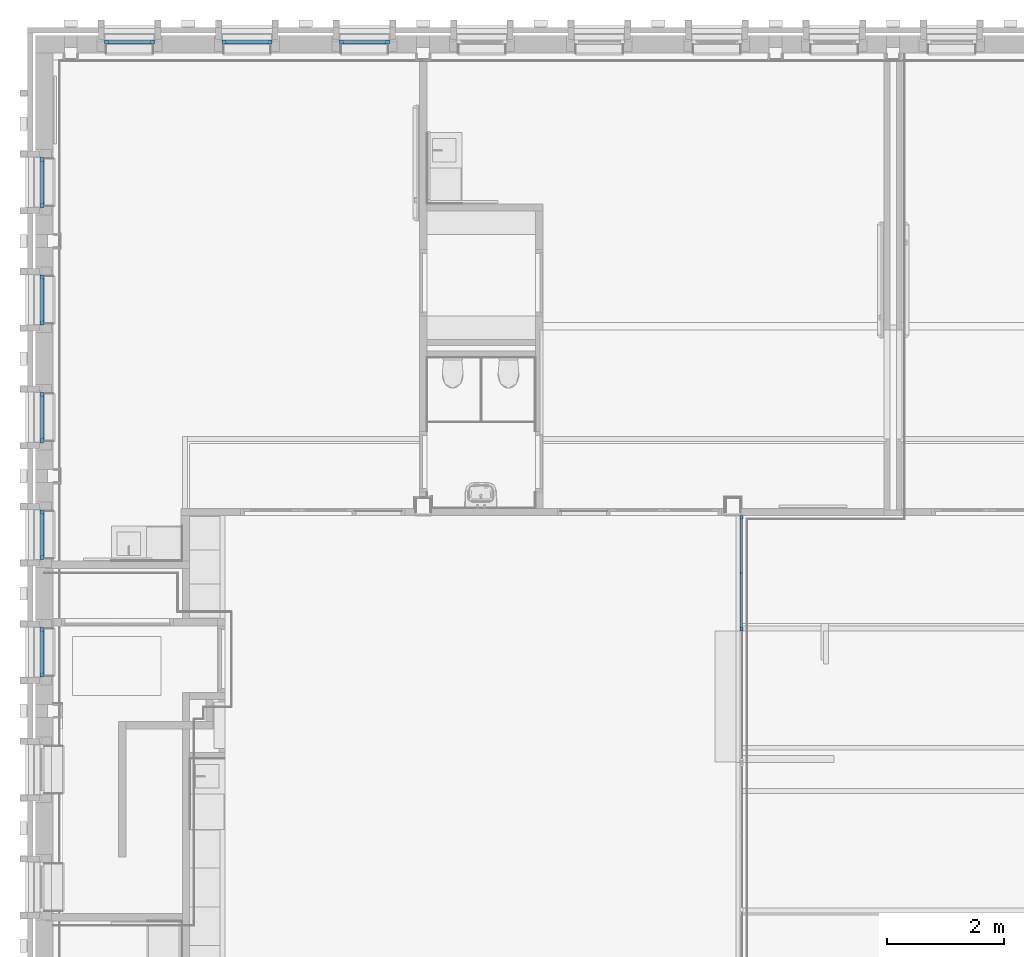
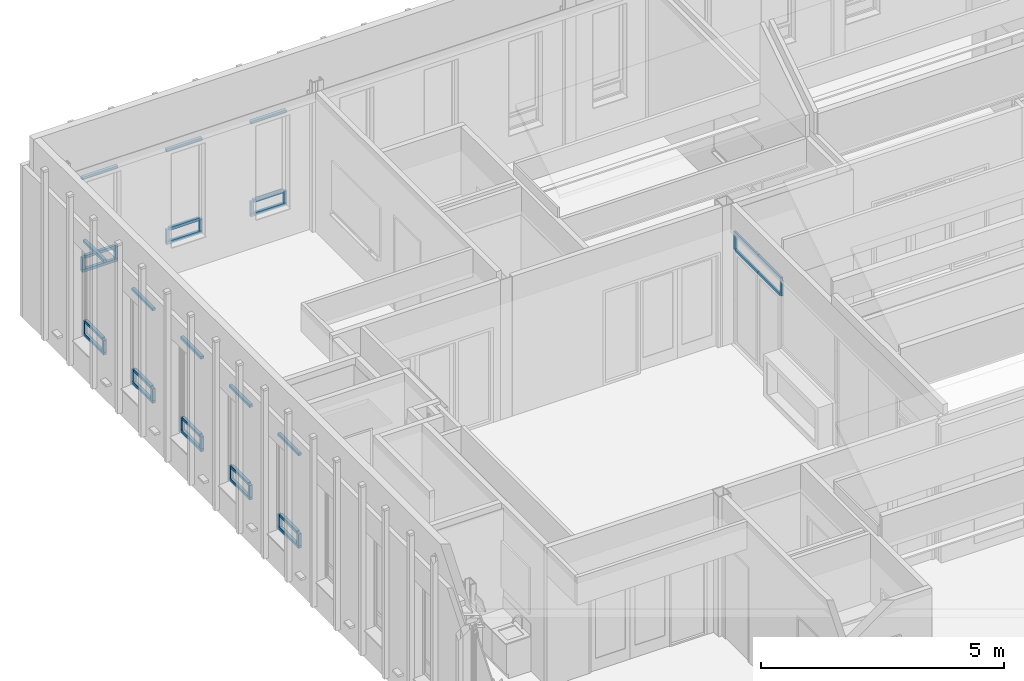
# One storey, part 13 of 118: 46 members, 9 elements without a shape of their own.
"""IFC2X3 building model written with IfcOpenShell, lengths in millimetres."""

from ifc_helpers import new_model, entity, si_unit, converted_unit, derived_unit, direction, frame, origin, origin_2d_with_axis, place, context, subcontext, project, spatial, rectangle, extrude, source, transform, mapped, material, material_list, type_object, type_shapes, element, aggregate, save


model = new_model("IFC2X3")

# Units and contexts
model_context = context("Model", 3, precision=0.01, world=origin(), true_north=direction((6.123031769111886e-17, 1.0)))
plan_context = context("Plan", 3, precision=0.01, world=origin(), true_north=direction((6.123031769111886e-17, 1.0)))
body_context = subcontext(model_context, "Body", "Model", "MODEL_VIEW")
ifc_project = project(units=[si_unit("LENGTHUNIT", "METRE", prefix="MILLI"), si_unit("AREAUNIT", "SQUARE_METRE"), si_unit("VOLUMEUNIT", "CUBIC_METRE"), converted_unit("PLANEANGLEUNIT", "DEGREE", entity("IfcRatioMeasure", 0.017453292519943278), si_unit("PLANEANGLEUNIT", "RADIAN"), dimensions=[0, 0, 0, 0, 0, 0, 0]), si_unit("MASSUNIT", "GRAM", prefix="KILO"), derived_unit("MASSDENSITYUNIT", [(si_unit("MASSUNIT", "GRAM", prefix="KILO"), 1), (si_unit("LENGTHUNIT", "METRE"), -3)]), derived_unit("IONCONCENTRATIONUNIT", [(si_unit("MASSUNIT", "GRAM", prefix="KILO"), 1), (si_unit("LENGTHUNIT", "METRE"), -3)]), derived_unit("MOMENTOFINERTIAUNIT", [(si_unit("LENGTHUNIT", "METRE"), 4)]), si_unit("TIMEUNIT", "SECOND"), si_unit("FREQUENCYUNIT", "HERTZ"), si_unit("THERMODYNAMICTEMPERATUREUNIT", "DEGREE_CELSIUS"), derived_unit("THERMALTRANSMITTANCEUNIT", [(si_unit("MASSUNIT", "GRAM", prefix="KILO"), 1), (si_unit("THERMODYNAMICTEMPERATUREUNIT", "KELVIN"), -1), (si_unit("TIMEUNIT", "SECOND"), -3)]), derived_unit("THERMALCONDUCTANCEUNIT", [(si_unit("MASSUNIT", "GRAM", prefix="KILO"), 1), (si_unit("THERMODYNAMICTEMPERATUREUNIT", "KELVIN"), -1), (si_unit("TIMEUNIT", "SECOND"), -3), (si_unit("LENGTHUNIT", "METRE"), 1)]), derived_unit("VOLUMETRICFLOWRATEUNIT", [(si_unit("LENGTHUNIT", "METRE"), 3), (si_unit("TIMEUNIT", "SECOND"), -1)]), derived_unit("MASSFLOWRATEUNIT", [(si_unit("MASSUNIT", "GRAM", prefix="KILO"), 1), (si_unit("TIMEUNIT", "SECOND"), -1)]), derived_unit("ROTATIONALFREQUENCYUNIT", [(si_unit("TIMEUNIT", "SECOND"), -1)]), si_unit("ELECTRICCURRENTUNIT", "AMPERE"), si_unit("ELECTRICVOLTAGEUNIT", "VOLT"), si_unit("POWERUNIT", "WATT"), si_unit("FORCEUNIT", "NEWTON", prefix="KILO"), si_unit("ILLUMINANCEUNIT", "LUX"), si_unit("LUMINOUSFLUXUNIT", "LUMEN"), si_unit("LUMINOUSINTENSITYUNIT", "CANDELA"), derived_unit("USERDEFINED", [(si_unit("MASSUNIT", "GRAM", prefix="KILO"), -1), (si_unit("LENGTHUNIT", "METRE"), -2), (si_unit("TIMEUNIT", "SECOND"), 3), (si_unit("LUMINOUSFLUXUNIT", "LUMEN"), 1)]), derived_unit("USERDEFINED", [(si_unit("MASSUNIT", "GRAM", prefix="KILO"), 1), (si_unit("TIMEUNIT", "SECOND"), -3), (si_unit("LENGTHUNIT", "METRE"), 3), (si_unit("ELECTRICCURRENTUNIT", "AMPERE"), -2)]), derived_unit("SOUNDPOWERUNIT", [(si_unit("MASSUNIT", "GRAM", prefix="KILO"), 1), (si_unit("TIMEUNIT", "SECOND"), -3), (si_unit("LENGTHUNIT", "METRE"), 2)]), derived_unit("SOUNDPRESSUREUNIT", [(si_unit("MASSUNIT", "GRAM", prefix="KILO"), 1), (si_unit("LENGTHUNIT", "METRE"), -1), (si_unit("TIMEUNIT", "SECOND"), -2)]), derived_unit("LINEARVELOCITYUNIT", [(si_unit("LENGTHUNIT", "METRE"), 1), (si_unit("TIMEUNIT", "SECOND"), -1)]), si_unit("PRESSUREUNIT", "PASCAL"), derived_unit("USERDEFINED", [(si_unit("MASSUNIT", "GRAM", prefix="KILO"), 1), (si_unit("LENGTHUNIT", "METRE"), -2), (si_unit("TIMEUNIT", "SECOND"), -2)]), derived_unit("LINEARFORCEUNIT", [(si_unit("MASSUNIT", "GRAM", prefix="KILO"), 1), (si_unit("TIMEUNIT", "SECOND"), -2)]), derived_unit("PLANARFORCEUNIT", [(si_unit("MASSUNIT", "GRAM", prefix="KILO"), 1), (si_unit("LENGTHUNIT", "METRE"), -1), (si_unit("TIMEUNIT", "SECOND"), -2)]), derived_unit("SPECIFICHEATCAPACITYUNIT", [(si_unit("THERMODYNAMICTEMPERATUREUNIT", "KELVIN"), -1), (si_unit("LENGTHUNIT", "METRE"), 2), (si_unit("TIMEUNIT", "SECOND"), -2)]), derived_unit("HEATINGVALUEUNIT", [(si_unit("LENGTHUNIT", "METRE"), 2), (si_unit("TIMEUNIT", "SECOND"), -2)]), derived_unit("VAPORPERMEABILITYUNIT", [(si_unit("LENGTHUNIT", "METRE"), -1), (si_unit("TIMEUNIT", "SECOND"), 1)]), derived_unit("DYNAMICVISCOSITYUNIT", [(si_unit("MASSUNIT", "GRAM", prefix="KILO"), 1), (si_unit("TIMEUNIT", "SECOND"), -1), (si_unit("LENGTHUNIT", "METRE"), -1)]), derived_unit("THERMALEXPANSIONCOEFFICIENTUNIT", [(si_unit("THERMODYNAMICTEMPERATUREUNIT", "KELVIN"), -1)]), derived_unit("MODULUSOFELASTICITYUNIT", [(si_unit("MASSUNIT", "GRAM", prefix="KILO"), 1), (si_unit("LENGTHUNIT", "METRE"), -1), (si_unit("TIMEUNIT", "SECOND"), -2)]), derived_unit("ISOTHERMALMOISTURECAPACITYUNIT", [(si_unit("LENGTHUNIT", "METRE"), 3), (si_unit("MASSUNIT", "GRAM", prefix="KILO"), -1)]), derived_unit("MOISTUREDIFFUSIVITYUNIT", [(si_unit("TIMEUNIT", "SECOND"), -1), (si_unit("LENGTHUNIT", "METRE"), 2)])], contexts=[model_context, plan_context])

# Site, building, storey
site_placement = place(None, origin())
site = spatial("IfcSite", under=ifc_project, at=site_placement, Name="Locatie", CompositionType="ELEMENT")
building_placement = place(site_placement, origin())
building = spatial("IfcBuilding", under=site, at=building_placement, Name="Bouwwerk", CompositionType="ELEMENT")
storey_placement = place(building_placement, frame((0.0, 0.0, 7800.0)))
storey = spatial("IfcBuildingStorey", under=building, at=storey_placement, Name="02 tweede verdieping", CompositionType="ELEMENT", Elevation=7800.000000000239)

# Curtain wall, member
curtain_wall_type_1 = type_object("IfcCurtainWallType", Name="Curtain Wall:NLRS_21_CW_Ontwerpkozijn_aluminium_RT72", PredefinedType="NOTDEFINED")
curtain_wall_1_placement = place(storey_placement, frame((0.0, 0.0, -7800.0)))
curtain_wall_1 = element("IfcCurtainWall", 1, at=curtain_wall_1_placement, inside=storey, type_object=curtain_wall_type_1, Name="Curtain Wall:NLRS_21_CW_Ontwerpkozijn_aluminium_RT72", ObjectType="Curtain Wall:NLRS_21_CW_Ontwerpkozijn_aluminium_RT72")
ifc_material_1 = material(Name="a_kozijn")
ifc_material_2 = material(Name="<Unnamed>")
ifc_material_list = material_list([ifc_material_2, ifc_material_1])
member_type_1 = type_object("IfcMemberType", Name="Rectangular Mullion:RT72_Vb_raam", PredefinedType="MULLION", material=ifc_material_list)
shared_shape_1 = source(origin(), body_context, "Body", "SweptSolid", [
    extrude(rectangle(XDim=71.99999999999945, YDim=68.00000000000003, at=origin_2d_with_axis()), frame((-34.0, -36.0, -850.0), z_axis=(0.0, 0.0, 1.0), x_axis=(0.0, -1.0, 0.0)), (0.0, 0.0, 1.0), 850.0000000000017),
])
type_shapes(member_type_1, [shared_shape_1])
member_1_placement = place(curtain_wall_1_placement, frame((9847.0, 24625.0, 10863.0), z_axis=(0.0, 1.0, 0.0), x_axis=(0.0, 0.0, 1.0)))
member_1 = element("IfcMember", 2, at=member_1_placement, type_object=member_type_1, material=ifc_material_1, Name="Rectangular Mullion:RT72_Vb_raam", ObjectType="Rectangular Mullion:RT72_Vb_raam", context=body_context, shape_type="MappedRepresentation", body=[
    mapped(shared_shape_1, transform((0.0, 0.0, 0.0), scale=1.0)),
])

curtain_wall_2_placement = place(storey_placement, frame((0.0, 0.0, -7800.0)))
curtain_wall_2 = element("IfcCurtainWall", 3, at=curtain_wall_2_placement, inside=storey, type_object=curtain_wall_type_1, Name="Curtain Wall:NLRS_21_CW_Ontwerpkozijn_aluminium_RT72", ObjectType="Curtain Wall:NLRS_21_CW_Ontwerpkozijn_aluminium_RT72")
member_2_placement = place(curtain_wall_2_placement, frame((9847.0, 26625.0, 10863.0), z_axis=(0.0, 1.0, 0.0), x_axis=(0.0, 0.0, 1.0)))
member_2 = element("IfcMember", 4, at=member_2_placement, type_object=member_type_1, material=ifc_material_1, Name="Rectangular Mullion:RT72_Vb_raam", ObjectType="Rectangular Mullion:RT72_Vb_raam", context=body_context, shape_type="MappedRepresentation", body=[
    mapped(shared_shape_1, transform((0.0, 0.0, 0.0), scale=1.0)),
])

curtain_wall_3_placement = place(storey_placement, frame((0.0, 0.0, -7800.0)))
curtain_wall_3 = element("IfcCurtainWall", 5, at=curtain_wall_3_placement, inside=storey, type_object=curtain_wall_type_1, Name="Curtain Wall:NLRS_21_CW_Ontwerpkozijn_aluminium_RT72", ObjectType="Curtain Wall:NLRS_21_CW_Ontwerpkozijn_aluminium_RT72")
member_3_placement = place(curtain_wall_3_placement, frame((9847.0, 30625.0, 10863.0), z_axis=(0.0, 1.0, 0.0), x_axis=(0.0, 0.0, 1.0)))
member_3 = element("IfcMember", 6, at=member_3_placement, type_object=member_type_1, material=ifc_material_1, Name="Rectangular Mullion:RT72_Vb_raam", ObjectType="Rectangular Mullion:RT72_Vb_raam", context=body_context, shape_type="MappedRepresentation", body=[
    mapped(shared_shape_1, transform((0.0, 0.0, 0.0), scale=1.0)),
])

curtain_wall_4_placement = place(storey_placement, frame((0.0, 0.0, -7800.0)))
curtain_wall_4 = element("IfcCurtainWall", 7, at=curtain_wall_4_placement, inside=storey, type_object=curtain_wall_type_1, Name="Curtain Wall:NLRS_21_CW_Ontwerpkozijn_aluminium_RT72", ObjectType="Curtain Wall:NLRS_21_CW_Ontwerpkozijn_aluminium_RT72")
member_4_placement = place(curtain_wall_4_placement, frame((13725.0, 34553.0, 10863.0), z_axis=(1.0, 0.0, 0.0), x_axis=(0.0, 0.0, 1.0)))
member_4 = element("IfcMember", 8, at=member_4_placement, type_object=member_type_1, material=ifc_material_1, Name="Rectangular Mullion:RT72_Vb_raam", ObjectType="Rectangular Mullion:RT72_Vb_raam", context=body_context, shape_type="MappedRepresentation", body=[
    mapped(shared_shape_1, transform((0.0, 0.0, 0.0), scale=1.0)),
])

curtain_wall_5_placement = place(storey_placement, frame((0.0, 0.0, -7800.0)))
curtain_wall_5 = element("IfcCurtainWall", 9, at=curtain_wall_5_placement, inside=storey, type_object=curtain_wall_type_1, Name="Curtain Wall:NLRS_21_CW_Ontwerpkozijn_aluminium_RT72", ObjectType="Curtain Wall:NLRS_21_CW_Ontwerpkozijn_aluminium_RT72")
member_5_placement = place(curtain_wall_5_placement, frame((15725.0, 34553.0, 10863.0), z_axis=(1.0, 0.0, 0.0), x_axis=(0.0, 0.0, 1.0)))
member_5 = element("IfcMember", 10, at=member_5_placement, type_object=member_type_1, material=ifc_material_1, Name="Rectangular Mullion:RT72_Vb_raam", ObjectType="Rectangular Mullion:RT72_Vb_raam", context=body_context, shape_type="MappedRepresentation", body=[
    mapped(shared_shape_1, transform((0.0, 0.0, 0.0), scale=1.0)),
])

curtain_wall_6_placement = place(storey_placement, frame((0.0, 0.0, -7800.0)))
curtain_wall_6 = element("IfcCurtainWall", 11, at=curtain_wall_6_placement, inside=storey, type_object=curtain_wall_type_1, Name="Curtain Wall:NLRS_21_CW_Ontwerpkozijn_aluminium_RT72", ObjectType="Curtain Wall:NLRS_21_CW_Ontwerpkozijn_aluminium_RT72")
member_6_placement = place(curtain_wall_6_placement, frame((11725.0, 34553.0, 10863.0), z_axis=(1.0, 0.0, 0.0), x_axis=(0.0, 0.0, 1.0)))
member_6 = element("IfcMember", 12, at=member_6_placement, type_object=member_type_1, material=ifc_material_1, Name="Rectangular Mullion:RT72_Vb_raam", ObjectType="Rectangular Mullion:RT72_Vb_raam", context=body_context, shape_type="MappedRepresentation", body=[
    mapped(shared_shape_1, transform((0.0, 0.0, 0.0), scale=1.0)),
])

curtain_wall_7_placement = place(storey_placement, frame((0.0, 0.0, -7800.0)))
curtain_wall_7 = element("IfcCurtainWall", 13, at=curtain_wall_7_placement, inside=storey, type_object=curtain_wall_type_1, Name="Curtain Wall:NLRS_21_CW_Ontwerpkozijn_aluminium_RT72", ObjectType="Curtain Wall:NLRS_21_CW_Ontwerpkozijn_aluminium_RT72")
member_7_placement = place(curtain_wall_7_placement, frame((9847.0, 28625.0, 10863.0), z_axis=(0.0, 1.0, 0.0), x_axis=(0.0, 0.0, 1.0)))
member_7 = element("IfcMember", 14, at=member_7_placement, type_object=member_type_1, material=ifc_material_1, Name="Rectangular Mullion:RT72_Vb_raam", ObjectType="Rectangular Mullion:RT72_Vb_raam", context=body_context, shape_type="MappedRepresentation", body=[
    mapped(shared_shape_1, transform((0.0, 0.0, 0.0), scale=1.0)),
])

curtain_wall_8_placement = place(storey_placement, frame((0.0, 0.0, -7800.0)))
curtain_wall_8 = element("IfcCurtainWall", 15, at=curtain_wall_8_placement, inside=storey, type_object=curtain_wall_type_1, Name="Curtain Wall:NLRS_21_CW_Ontwerpkozijn_aluminium_RT72", ObjectType="Curtain Wall:NLRS_21_CW_Ontwerpkozijn_aluminium_RT72")
member_8_placement = place(curtain_wall_8_placement, frame((9847.0, 32625.0, 10863.0), z_axis=(0.0, 1.0, 0.0), x_axis=(0.0, 0.0, 1.0)))
member_8 = element("IfcMember", 16, at=member_8_placement, type_object=member_type_1, material=ifc_material_1, Name="Rectangular Mullion:RT72_Vb_raam", ObjectType="Rectangular Mullion:RT72_Vb_raam", context=body_context, shape_type="MappedRepresentation", body=[
    mapped(shared_shape_1, transform((0.0, 0.0, 0.0), scale=1.0)),
])

# Member
member_type_2 = type_object("IfcMemberType", Name="Rectangular Mullion:RT72_Vo_raam", PredefinedType="MULLION", material=ifc_material_list)
shared_shape_2 = source(origin(), body_context, "Body", "SweptSolid", [
    extrude(rectangle(XDim=71.99999999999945, YDim=68.00000000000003, at=origin_2d_with_axis()), frame((-34.0, -36.0, -850.0), z_axis=(0.0, 0.0, 1.0), x_axis=(0.0, -1.0, 0.0)), (0.0, 0.0, 1.0), 850.0000000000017),
])
type_shapes(member_type_2, [shared_shape_2])
member_9_placement = place(curtain_wall_1_placement, frame((9847.0, 23775.0, 8473.0), z_axis=(0.0, -1.0, 0.0), x_axis=(0.0, 0.0, -1.0)))
member_9 = element("IfcMember", 17, at=member_9_placement, type_object=member_type_2, material=ifc_material_1, Name="Rectangular Mullion:RT72_Vo_raam", ObjectType="Rectangular Mullion:RT72_Vo_raam", context=body_context, shape_type="MappedRepresentation", body=[
    mapped(shared_shape_2, transform((0.0, 0.0, 0.0), scale=1.0)),
])

member_10_placement = place(curtain_wall_2_placement, frame((9847.0, 25775.0, 8473.0), z_axis=(0.0, -1.0, 0.0), x_axis=(0.0, 0.0, -1.0)))
member_10 = element("IfcMember", 18, at=member_10_placement, type_object=member_type_2, material=ifc_material_1, Name="Rectangular Mullion:RT72_Vo_raam", ObjectType="Rectangular Mullion:RT72_Vo_raam", context=body_context, shape_type="MappedRepresentation", body=[
    mapped(shared_shape_2, transform((0.0, 0.0, 0.0), scale=1.0)),
])

member_11_placement = place(curtain_wall_3_placement, frame((9847.0, 29775.0, 8473.0), z_axis=(0.0, -1.0, 0.0), x_axis=(0.0, 0.0, -1.0)))
member_11 = element("IfcMember", 19, at=member_11_placement, type_object=member_type_2, material=ifc_material_1, Name="Rectangular Mullion:RT72_Vo_raam", ObjectType="Rectangular Mullion:RT72_Vo_raam", context=body_context, shape_type="MappedRepresentation", body=[
    mapped(shared_shape_2, transform((0.0, 0.0, 0.0), scale=1.0)),
])

member_12_placement = place(curtain_wall_4_placement, frame((12875.0, 34553.0, 8473.0), z_axis=(-1.0, 0.0, 0.0), x_axis=(0.0, 0.0, -1.0)))
member_12 = element("IfcMember", 20, at=member_12_placement, type_object=member_type_2, material=ifc_material_1, Name="Rectangular Mullion:RT72_Vo_raam", ObjectType="Rectangular Mullion:RT72_Vo_raam", context=body_context, shape_type="MappedRepresentation", body=[
    mapped(shared_shape_2, transform((0.0, 0.0, 0.0), scale=1.0)),
])

member_13_placement = place(curtain_wall_5_placement, frame((14875.0, 34553.0, 8473.0), z_axis=(-1.0, 0.0, 0.0), x_axis=(0.0, 0.0, -1.0)))
member_13 = element("IfcMember", 21, at=member_13_placement, type_object=member_type_2, material=ifc_material_1, Name="Rectangular Mullion:RT72_Vo_raam", ObjectType="Rectangular Mullion:RT72_Vo_raam", context=body_context, shape_type="MappedRepresentation", body=[
    mapped(shared_shape_2, transform((0.0, 0.0, 0.0), scale=1.0)),
])

member_14_placement = place(curtain_wall_6_placement, frame((10875.0, 34553.0, 8473.0), z_axis=(-1.0, 0.0, 0.0), x_axis=(0.0, 0.0, -1.0)))
member_14 = element("IfcMember", 22, at=member_14_placement, type_object=member_type_2, material=ifc_material_1, Name="Rectangular Mullion:RT72_Vo_raam", ObjectType="Rectangular Mullion:RT72_Vo_raam", context=body_context, shape_type="MappedRepresentation", body=[
    mapped(shared_shape_2, transform((0.0, 0.0, 0.0), scale=1.0)),
])

member_15_placement = place(curtain_wall_7_placement, frame((9847.0, 27775.0, 8473.0), z_axis=(0.0, -1.0, 0.0), x_axis=(0.0, 0.0, -1.0)))
member_15 = element("IfcMember", 23, at=member_15_placement, type_object=member_type_2, material=ifc_material_1, Name="Rectangular Mullion:RT72_Vo_raam", ObjectType="Rectangular Mullion:RT72_Vo_raam", context=body_context, shape_type="MappedRepresentation", body=[
    mapped(shared_shape_2, transform((0.0, 0.0, 0.0), scale=1.0)),
])

member_16_placement = place(curtain_wall_8_placement, frame((9847.0, 31775.0, 8473.0), z_axis=(0.0, -1.0, 0.0), x_axis=(0.0, 0.0, -1.0)))
member_16 = element("IfcMember", 24, at=member_16_placement, type_object=member_type_2, material=ifc_material_1, Name="Rectangular Mullion:RT72_Vo_raam", ObjectType="Rectangular Mullion:RT72_Vo_raam", context=body_context, shape_type="MappedRepresentation", body=[
    mapped(shared_shape_2, transform((0.0, 0.0, 0.0), scale=1.0)),
])

member_type_3 = type_object("IfcMemberType", Name="Rectangular Mullion:RT72_Hl_raam", PredefinedType="MULLION", material=ifc_material_list)
shared_shape_3 = source(origin(), body_context, "Body", "SweptSolid", [
    extrude(rectangle(XDim=71.99999999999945, YDim=68.00000000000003, at=origin_2d_with_axis()), frame((-34.0, -36.0, -301.0), z_axis=(0.0, 0.0, 1.0), x_axis=(0.0, -1.0, 0.0)), (0.0, 0.0, 1.0), 301.00000000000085),
])
type_shapes(member_type_3, [shared_shape_3])
member_17_placement = place(curtain_wall_1_placement, frame((9847.0, 24625.0, 8541.0), z_axis=(0.0, 0.0, -1.0), x_axis=(0.0, 1.0, 0.0)))
member_17 = element("IfcMember", 25, at=member_17_placement, type_object=member_type_3, material=ifc_material_1, Name="Rectangular Mullion:RT72_Hl_raam", ObjectType="Rectangular Mullion:RT72_Hl_raam", context=body_context, shape_type="MappedRepresentation", body=[
    mapped(shared_shape_3, transform((0.0, 0.0, 0.0), scale=1.0)),
])

member_18_placement = place(curtain_wall_2_placement, frame((9847.0, 26625.0, 8541.0), z_axis=(0.0, 0.0, -1.0), x_axis=(0.0, 1.0, 0.0)))
member_18 = element("IfcMember", 26, at=member_18_placement, type_object=member_type_3, material=ifc_material_1, Name="Rectangular Mullion:RT72_Hl_raam", ObjectType="Rectangular Mullion:RT72_Hl_raam", context=body_context, shape_type="MappedRepresentation", body=[
    mapped(shared_shape_3, transform((0.0, 0.0, 0.0), scale=1.0)),
])

member_19_placement = place(curtain_wall_3_placement, frame((9847.0, 30625.0, 8541.0), z_axis=(0.0, 0.0, -1.0), x_axis=(0.0, 1.0, 0.0)))
member_19 = element("IfcMember", 27, at=member_19_placement, type_object=member_type_3, material=ifc_material_1, Name="Rectangular Mullion:RT72_Hl_raam", ObjectType="Rectangular Mullion:RT72_Hl_raam", context=body_context, shape_type="MappedRepresentation", body=[
    mapped(shared_shape_3, transform((0.0, 0.0, 0.0), scale=1.0)),
])

member_20_placement = place(curtain_wall_4_placement, frame((13725.0, 34553.0, 8541.0), z_axis=(0.0, 0.0, -1.0), x_axis=(1.0, 0.0, 0.0)))
member_20 = element("IfcMember", 28, at=member_20_placement, type_object=member_type_3, material=ifc_material_1, Name="Rectangular Mullion:RT72_Hl_raam", ObjectType="Rectangular Mullion:RT72_Hl_raam", context=body_context, shape_type="MappedRepresentation", body=[
    mapped(shared_shape_3, transform((0.0, 0.0, 0.0), scale=1.0)),
])

member_21_placement = place(curtain_wall_5_placement, frame((15725.0, 34553.0, 8541.0), z_axis=(0.0, 0.0, -1.0), x_axis=(1.0, 0.0, 0.0)))
member_21 = element("IfcMember", 29, at=member_21_placement, type_object=member_type_3, material=ifc_material_1, Name="Rectangular Mullion:RT72_Hl_raam", ObjectType="Rectangular Mullion:RT72_Hl_raam", context=body_context, shape_type="MappedRepresentation", body=[
    mapped(shared_shape_3, transform((0.0, 0.0, 0.0), scale=1.0)),
])

member_22_placement = place(curtain_wall_6_placement, frame((11725.0, 34553.0, 8541.0), z_axis=(0.0, 0.0, -1.0), x_axis=(1.0, 0.0, 0.0)))
member_22 = element("IfcMember", 30, at=member_22_placement, type_object=member_type_3, material=ifc_material_1, Name="Rectangular Mullion:RT72_Hl_raam", ObjectType="Rectangular Mullion:RT72_Hl_raam", context=body_context, shape_type="MappedRepresentation", body=[
    mapped(shared_shape_3, transform((0.0, 0.0, 0.0), scale=1.0)),
])

member_23_placement = place(curtain_wall_7_placement, frame((9847.0, 28625.0, 8541.0), z_axis=(0.0, 0.0, -1.0), x_axis=(0.0, 1.0, 0.0)))
member_23 = element("IfcMember", 31, at=member_23_placement, type_object=member_type_3, material=ifc_material_1, Name="Rectangular Mullion:RT72_Hl_raam", ObjectType="Rectangular Mullion:RT72_Hl_raam", context=body_context, shape_type="MappedRepresentation", body=[
    mapped(shared_shape_3, transform((0.0, 0.0, 0.0), scale=1.0)),
])

member_24_placement = place(curtain_wall_8_placement, frame((9847.0, 32625.0, 8541.0), z_axis=(0.0, 0.0, -1.0), x_axis=(0.0, 1.0, 0.0)))
member_24 = element("IfcMember", 32, at=member_24_placement, type_object=member_type_3, material=ifc_material_1, Name="Rectangular Mullion:RT72_Hl_raam", ObjectType="Rectangular Mullion:RT72_Hl_raam", context=body_context, shape_type="MappedRepresentation", body=[
    mapped(shared_shape_3, transform((0.0, 0.0, 0.0), scale=1.0)),
])

member_type_4 = type_object("IfcMemberType", Name="Rectangular Mullion:RT72_Hr_raam", PredefinedType="MULLION", material=ifc_material_list)
shared_shape_4 = source(origin(), body_context, "Body", "SweptSolid", [
    extrude(rectangle(XDim=71.99999999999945, YDim=68.00000000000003, at=origin_2d_with_axis()), frame((-34.0, -36.0, -301.0), z_axis=(0.0, 0.0, 1.0), x_axis=(0.0, -1.0, 0.0)), (0.0, 0.0, 1.0), 301.00000000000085),
])
type_shapes(member_type_4, [shared_shape_4])
member_25_placement = place(curtain_wall_1_placement, frame((9847.0, 23775.0, 8842.0), z_axis=(0.0, 0.0, 1.0), x_axis=(0.0, -1.0, 0.0)))
member_25 = element("IfcMember", 33, at=member_25_placement, type_object=member_type_4, material=ifc_material_1, Name="Rectangular Mullion:RT72_Hr_raam", ObjectType="Rectangular Mullion:RT72_Hr_raam", context=body_context, shape_type="MappedRepresentation", body=[
    mapped(shared_shape_4, transform((0.0, 0.0, 0.0), scale=1.0)),
])

member_26_placement = place(curtain_wall_2_placement, frame((9847.0, 25775.0, 8842.0), z_axis=(0.0, 0.0, 1.0), x_axis=(0.0, -1.0, 0.0)))
member_26 = element("IfcMember", 34, at=member_26_placement, type_object=member_type_4, material=ifc_material_1, Name="Rectangular Mullion:RT72_Hr_raam", ObjectType="Rectangular Mullion:RT72_Hr_raam", context=body_context, shape_type="MappedRepresentation", body=[
    mapped(shared_shape_4, transform((0.0, 0.0, 0.0), scale=1.0)),
])

member_27_placement = place(curtain_wall_3_placement, frame((9847.0, 29775.0, 8842.0), z_axis=(0.0, 0.0, 1.0), x_axis=(0.0, -1.0, 0.0)))
member_27 = element("IfcMember", 35, at=member_27_placement, type_object=member_type_4, material=ifc_material_1, Name="Rectangular Mullion:RT72_Hr_raam", ObjectType="Rectangular Mullion:RT72_Hr_raam", context=body_context, shape_type="MappedRepresentation", body=[
    mapped(shared_shape_4, transform((0.0, 0.0, 0.0), scale=1.0)),
])

member_28_placement = place(curtain_wall_4_placement, frame((12875.0, 34553.0, 8842.0), z_axis=(0.0, 0.0, 1.0), x_axis=(-1.0, 0.0, 0.0)))
member_28 = element("IfcMember", 36, at=member_28_placement, type_object=member_type_4, material=ifc_material_1, Name="Rectangular Mullion:RT72_Hr_raam", ObjectType="Rectangular Mullion:RT72_Hr_raam", context=body_context, shape_type="MappedRepresentation", body=[
    mapped(shared_shape_4, transform((0.0, 0.0, 0.0), scale=1.0)),
])

member_29_placement = place(curtain_wall_5_placement, frame((14875.0, 34553.0, 8842.0), z_axis=(0.0, 0.0, 1.0), x_axis=(-1.0, 0.0, 0.0)))
member_29 = element("IfcMember", 37, at=member_29_placement, type_object=member_type_4, material=ifc_material_1, Name="Rectangular Mullion:RT72_Hr_raam", ObjectType="Rectangular Mullion:RT72_Hr_raam", context=body_context, shape_type="MappedRepresentation", body=[
    mapped(shared_shape_4, transform((0.0, 0.0, 0.0), scale=1.0)),
])

member_30_placement = place(curtain_wall_6_placement, frame((10875.0, 34553.0, 8842.0), z_axis=(0.0, 0.0, 1.0), x_axis=(-1.0, 0.0, 0.0)))
member_30 = element("IfcMember", 38, at=member_30_placement, type_object=member_type_4, material=ifc_material_1, Name="Rectangular Mullion:RT72_Hr_raam", ObjectType="Rectangular Mullion:RT72_Hr_raam", context=body_context, shape_type="MappedRepresentation", body=[
    mapped(shared_shape_4, transform((0.0, 0.0, 0.0), scale=1.0)),
])

member_31_placement = place(curtain_wall_7_placement, frame((9847.0, 27775.0, 8842.0), z_axis=(0.0, 0.0, 1.0), x_axis=(0.0, -1.0, 0.0)))
member_31 = element("IfcMember", 39, at=member_31_placement, type_object=member_type_4, material=ifc_material_1, Name="Rectangular Mullion:RT72_Hr_raam", ObjectType="Rectangular Mullion:RT72_Hr_raam", context=body_context, shape_type="MappedRepresentation", body=[
    mapped(shared_shape_4, transform((0.0, 0.0, 0.0), scale=1.0)),
])

member_32_placement = place(curtain_wall_8_placement, frame((9847.0, 31775.0, 8842.0), z_axis=(0.0, 0.0, 1.0), x_axis=(0.0, -1.0, 0.0)))
member_32 = element("IfcMember", 40, at=member_32_placement, type_object=member_type_4, material=ifc_material_1, Name="Rectangular Mullion:RT72_Hr_raam", ObjectType="Rectangular Mullion:RT72_Hr_raam", context=body_context, shape_type="MappedRepresentation", body=[
    mapped(shared_shape_4, transform((0.0, 0.0, 0.0), scale=1.0)),
])

member_type_5 = type_object("IfcMemberType", Name="Rectangular Mullion:RT72_Vb_raam", PredefinedType="MULLION", material=ifc_material_list)
shared_shape_5 = source(origin(), body_context, "Body", "SweptSolid", [
    extrude(rectangle(XDim=71.99999999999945, YDim=68.00000000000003, at=origin_2d_with_axis()), frame((0.0, -36.0, -714.0), z_axis=(0.0, 0.0, 1.0), x_axis=(0.0, -1.0, 0.0)), (0.0, 0.0, 1.0), 714.0000000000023),
])
type_shapes(member_type_5, [shared_shape_5])
member_33_placement = place(curtain_wall_1_placement, frame((9847.0, 24557.0, 8842.0), z_axis=(0.0, 1.0, 0.0), x_axis=(0.0, 0.0, 1.0)))
member_33 = element("IfcMember", 41, at=member_33_placement, type_object=member_type_5, material=ifc_material_1, Name="Rectangular Mullion:RT72_Vb_raam", ObjectType="Rectangular Mullion:RT72_Vb_raam", context=body_context, shape_type="MappedRepresentation", body=[
    mapped(shared_shape_5, transform((0.0, 0.0, 0.0), scale=1.0)),
])

aggregate(curtain_wall_1, [member_1, member_9, member_17, member_25, member_33])

member_34_placement = place(curtain_wall_2_placement, frame((9847.0, 26557.0, 8842.0), z_axis=(0.0, 1.0, 0.0), x_axis=(0.0, 0.0, 1.0)))
member_34 = element("IfcMember", 42, at=member_34_placement, type_object=member_type_5, material=ifc_material_1, Name="Rectangular Mullion:RT72_Vb_raam", ObjectType="Rectangular Mullion:RT72_Vb_raam", context=body_context, shape_type="MappedRepresentation", body=[
    mapped(shared_shape_5, transform((0.0, 0.0, 0.0), scale=1.0)),
])

aggregate(curtain_wall_2, [member_2, member_10, member_18, member_26, member_34])

member_35_placement = place(curtain_wall_3_placement, frame((9847.0, 30557.0, 8842.0), z_axis=(0.0, 1.0, 0.0), x_axis=(0.0, 0.0, 1.0)))
member_35 = element("IfcMember", 43, at=member_35_placement, type_object=member_type_5, material=ifc_material_1, Name="Rectangular Mullion:RT72_Vb_raam", ObjectType="Rectangular Mullion:RT72_Vb_raam", context=body_context, shape_type="MappedRepresentation", body=[
    mapped(shared_shape_5, transform((0.0, 0.0, 0.0), scale=1.0)),
])

aggregate(curtain_wall_3, [member_3, member_11, member_19, member_27, member_35])

member_36_placement = place(curtain_wall_4_placement, frame((13657.0, 34553.0, 8842.0), z_axis=(1.0, 0.0, 0.0), x_axis=(0.0, 0.0, 1.0)))
member_36 = element("IfcMember", 44, at=member_36_placement, type_object=member_type_5, material=ifc_material_1, Name="Rectangular Mullion:RT72_Vb_raam", ObjectType="Rectangular Mullion:RT72_Vb_raam", context=body_context, shape_type="MappedRepresentation", body=[
    mapped(shared_shape_5, transform((0.0, 0.0, 0.0), scale=1.0)),
])

aggregate(curtain_wall_4, [member_4, member_12, member_20, member_28, member_36])

member_37_placement = place(curtain_wall_5_placement, frame((15657.0, 34553.0, 8842.0), z_axis=(1.0, 0.0, 0.0), x_axis=(0.0, 0.0, 1.0)))
member_37 = element("IfcMember", 45, at=member_37_placement, type_object=member_type_5, material=ifc_material_1, Name="Rectangular Mullion:RT72_Vb_raam", ObjectType="Rectangular Mullion:RT72_Vb_raam", context=body_context, shape_type="MappedRepresentation", body=[
    mapped(shared_shape_5, transform((0.0, 0.0, 0.0), scale=1.0)),
])

aggregate(curtain_wall_5, [member_5, member_13, member_21, member_29, member_37])

member_38_placement = place(curtain_wall_6_placement, frame((11657.0, 34553.0, 8842.0), z_axis=(1.0, 0.0, 0.0), x_axis=(0.0, 0.0, 1.0)))
member_38 = element("IfcMember", 46, at=member_38_placement, type_object=member_type_5, material=ifc_material_1, Name="Rectangular Mullion:RT72_Vb_raam", ObjectType="Rectangular Mullion:RT72_Vb_raam", context=body_context, shape_type="MappedRepresentation", body=[
    mapped(shared_shape_5, transform((0.0, 0.0, 0.0), scale=1.0)),
])

aggregate(curtain_wall_6, [member_6, member_14, member_22, member_30, member_38])

member_39_placement = place(curtain_wall_7_placement, frame((9847.0, 28557.0, 8842.0), z_axis=(0.0, 1.0, 0.0), x_axis=(0.0, 0.0, 1.0)))
member_39 = element("IfcMember", 47, at=member_39_placement, type_object=member_type_5, material=ifc_material_1, Name="Rectangular Mullion:RT72_Vb_raam", ObjectType="Rectangular Mullion:RT72_Vb_raam", context=body_context, shape_type="MappedRepresentation", body=[
    mapped(shared_shape_5, transform((0.0, 0.0, 0.0), scale=1.0)),
])

aggregate(curtain_wall_7, [member_7, member_15, member_23, member_31, member_39])

member_40_placement = place(curtain_wall_8_placement, frame((9847.0, 32557.0, 8842.0), z_axis=(0.0, 1.0, 0.0), x_axis=(0.0, 0.0, 1.0)))
member_40 = element("IfcMember", 48, at=member_40_placement, type_object=member_type_5, material=ifc_material_1, Name="Rectangular Mullion:RT72_Vb_raam", ObjectType="Rectangular Mullion:RT72_Vb_raam", context=body_context, shape_type="MappedRepresentation", body=[
    mapped(shared_shape_5, transform((0.0, 0.0, 0.0), scale=1.0)),
])

aggregate(curtain_wall_8, [member_8, member_16, member_24, member_32, member_40])

# Curtain wall, members
curtain_wall_type_2 = type_object("IfcCurtainWallType", Name="Curtain Wall:32_BDG_Jansen Economy 50", PredefinedType="NOTDEFINED")
curtain_wall_9_placement = place(storey_placement, frame((0.0, 0.0, -7800.0)))
curtain_wall_9 = element("IfcCurtainWall", 49, at=curtain_wall_9_placement, inside=storey, type_object=curtain_wall_type_2, Name="Curtain Wall:32_BDG_Jansen Economy 50", ObjectType="Curtain Wall:32_BDG_Jansen Economy 50")
ifc_material_3 = material(Name="h2_staal_gen")
member_type_6 = type_object("IfcMemberType", Name="Rectangular Mullion:CWM_Jansen Economy 50 bxh=50x60mm", PredefinedType="MULLION", material=ifc_material_3)
shared_shape_6 = source(origin(), body_context, "Body", "SweptSolid", [
    extrude(rectangle(XDim=50.0, YDim=60.0, at=origin_2d_with_axis()), frame((-30.0, 0.0, -387.49999999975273), z_axis=(0.0, 0.0, 1.0), x_axis=(0.0, -1.0, 0.0)), (0.0, 0.0, 1.0), 387.49999999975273),
])
type_shapes(member_type_6, [shared_shape_6])
member_41_placement = place(curtain_wall_9_placement, frame((21717.0, 26525.0, 10540.0), z_axis=(0.0, 0.0, 1.0), x_axis=(0.0, 1.0, 0.0)))
member_41 = element("IfcMember", 50, at=member_41_placement, type_object=member_type_6, material=ifc_material_3, Name="Rectangular Mullion:CWM_Jansen Economy 50 bxh=50x60mm", ObjectType="Rectangular Mullion:CWM_Jansen Economy 50 bxh=50x60mm", context=body_context, shape_type="MappedRepresentation", body=[
    mapped(shared_shape_6, transform((0.0, 0.0, 0.0), scale=1.0)),
])
member_type_7 = type_object("IfcMemberType", Name="Rectangular Mullion:CWM_Jansen Economy 50 bxh=50x60mm", PredefinedType="MULLION", material=ifc_material_3)
shared_shape_7 = source(origin(), body_context, "Body", "SweptSolid", [
    extrude(rectangle(XDim=50.0, YDim=60.0, at=origin_2d_with_axis()), frame((-30.0, 0.0, -949.813114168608), z_axis=(0.0, 0.0, 1.0), x_axis=(0.0, -1.0, 0.0)), (0.0, 0.0, 1.0), 949.813114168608),
])
type_shapes(member_type_7, [shared_shape_7])
member_42_placement = place(curtain_wall_9_placement, frame((21717.0, 24595.03688591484, 10600.0), z_axis=(0.0, -1.0, 0.0), x_axis=(0.0, 0.0, 1.0)))
member_42 = element("IfcMember", 51, at=member_42_placement, type_object=member_type_7, material=ifc_material_3, Name="Rectangular Mullion:CWM_Jansen Economy 50 bxh=50x60mm", ObjectType="Rectangular Mullion:CWM_Jansen Economy 50 bxh=50x60mm", context=body_context, shape_type="MappedRepresentation", body=[
    mapped(shared_shape_7, transform((0.0, 0.0, 0.0), scale=1.0)),
])
member_type_8 = type_object("IfcMemberType", Name="Rectangular Mullion:CWM_Jansen Economy 50 bxh=50x60mm", PredefinedType="MULLION", material=ifc_material_3)
shared_shape_8 = source(origin(), body_context, "Body", "SweptSolid", [
    extrude(rectangle(XDim=50.0, YDim=60.0, at=origin_2d_with_axis()), frame((-30.0, 0.0, -980.0), z_axis=(0.0, 0.0, 1.0), x_axis=(0.0, -1.0, 0.0)), (0.0, 0.0, 1.0), 979.999999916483),
])
type_shapes(member_type_8, [shared_shape_8])
member_43_placement = place(curtain_wall_9_placement, frame((21717.0, 25545.0, 10600.0), z_axis=(0.0, -1.0, 0.0), x_axis=(0.0, 0.0, 1.0)))
member_43 = element("IfcMember", 52, at=member_43_placement, type_object=member_type_8, material=ifc_material_3, Name="Rectangular Mullion:CWM_Jansen Economy 50 bxh=50x60mm", ObjectType="Rectangular Mullion:CWM_Jansen Economy 50 bxh=50x60mm", context=body_context, shape_type="MappedRepresentation", body=[
    mapped(shared_shape_8, transform((0.0, 0.0, 0.0), scale=1.0)),
])
member_type_9 = type_object("IfcMemberType", Name="Rectangular Mullion:CWM_Jansen Economy 50 bxh=50x60mm", PredefinedType="MULLION", material=ifc_material_3)
shared_shape_9 = source(origin(), body_context, "Body", "SweptSolid", [
    extrude(rectangle(XDim=50.0, YDim=60.0, at=origin_2d_with_axis()), frame((0.0, 0.0, -920.0), z_axis=(0.0, 0.0, 1.0), x_axis=(0.0, -1.0, 0.0)), (0.0, 0.0, 1.0), 919.9999999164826),
])
type_shapes(member_type_9, [shared_shape_9])
member_44_placement = place(curtain_wall_9_placement, frame((21717.0, 25545.0, 10152.500000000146), z_axis=(0.0, -1.0, 0.0), x_axis=(0.0, 0.0, 1.0)))
member_44 = element("IfcMember", 53, at=member_44_placement, type_object=member_type_9, material=ifc_material_3, Name="Rectangular Mullion:CWM_Jansen Economy 50 bxh=50x60mm", ObjectType="Rectangular Mullion:CWM_Jansen Economy 50 bxh=50x60mm", context=body_context, shape_type="MappedRepresentation", body=[
    mapped(shared_shape_9, transform((0.0, 0.0, 0.0), scale=1.0)),
])
member_type_10 = type_object("IfcMemberType", Name="Rectangular Mullion:CWM_Jansen Economy 50 bxh=50x60mm", PredefinedType="MULLION", material=ifc_material_3)
shared_shape_10 = source(origin(), body_context, "Body", "SweptSolid", [
    extrude(rectangle(XDim=50.0, YDim=60.0, at=origin_2d_with_axis()), frame((0.0, 0.0, -919.8131141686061), z_axis=(0.0, 0.0, 1.0), x_axis=(0.0, -1.0, 0.0)), (0.0, 0.0, 1.0), 919.8131141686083),
])
type_shapes(member_type_10, [shared_shape_10])
member_45_placement = place(curtain_wall_9_placement, frame((21717.0, 24625.03688591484, 10152.500000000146), z_axis=(0.0, -1.0, 0.0), x_axis=(0.0, 0.0, 1.0)))
member_45 = element("IfcMember", 54, at=member_45_placement, type_object=member_type_10, material=ifc_material_3, Name="Rectangular Mullion:CWM_Jansen Economy 50 bxh=50x60mm", ObjectType="Rectangular Mullion:CWM_Jansen Economy 50 bxh=50x60mm", context=body_context, shape_type="MappedRepresentation", body=[
    mapped(shared_shape_10, transform((0.0, 0.0, 0.0), scale=1.0)),
])
member_type_11 = type_object("IfcMemberType", Name="Rectangular Mullion:CWM_Jansen Economy 50 bxh=50x60mm", PredefinedType="MULLION", material=ifc_material_3)
shared_shape_11 = source(origin(), body_context, "Body", "SweptSolid", [
    extrude(rectangle(XDim=50.0, YDim=60.0, at=origin_2d_with_axis()), frame((0.0, 0.0, -387.49999999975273), z_axis=(0.0, 0.0, 1.0), x_axis=(0.0, -1.0, 0.0)), (0.0, 0.0, 1.0), 387.49999999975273),
])
type_shapes(member_type_11, [shared_shape_11])
member_46_placement = place(curtain_wall_9_placement, frame((21717.0, 24595.03688591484, 10152.500000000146), z_axis=(0.0, 0.0, -1.0), x_axis=(0.0, -1.0, 0.0)))
member_46 = element("IfcMember", 55, at=member_46_placement, type_object=member_type_11, material=ifc_material_3, Name="Rectangular Mullion:CWM_Jansen Economy 50 bxh=50x60mm", ObjectType="Rectangular Mullion:CWM_Jansen Economy 50 bxh=50x60mm", context=body_context, shape_type="MappedRepresentation", body=[
    mapped(shared_shape_11, transform((0.0, 0.0, 0.0), scale=1.0)),
])
aggregate(curtain_wall_9, [member_41, member_42, member_43, member_44, member_45, member_46])

save(model, "model.ifc")
